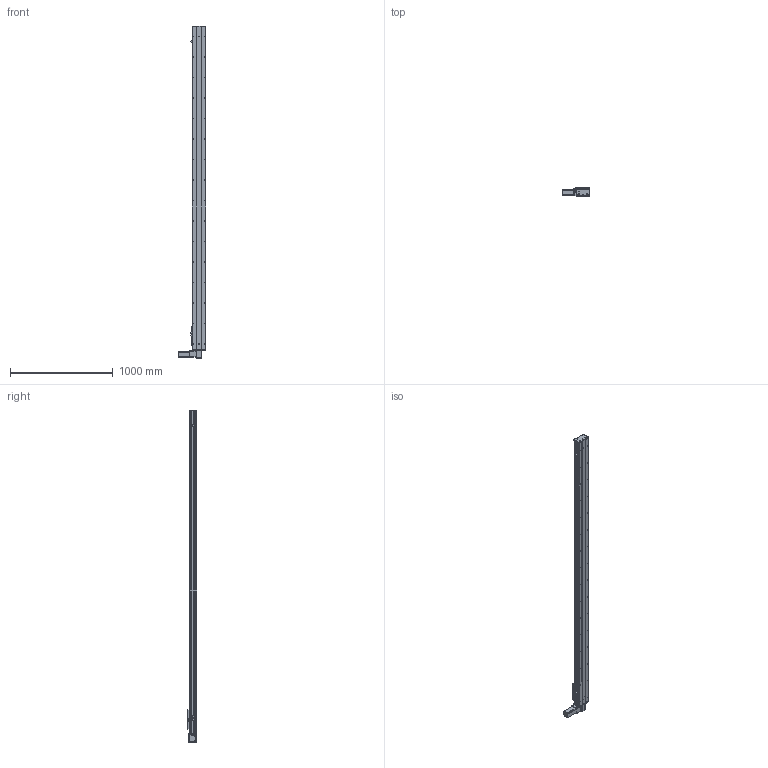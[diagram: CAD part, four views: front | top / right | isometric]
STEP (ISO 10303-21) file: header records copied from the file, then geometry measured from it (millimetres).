
FILE_DESCRIPTION (( 'STEP AP203' ), '1' );
FILE_NAME ('Y135CB-D90-S2850-BD-P400W.STEP', '2020-02-19T06:22:16', ( '微软用户' ), ( '微软中国' ), 'SwSTEP 2.0', 'SolidWorks 2017', '' );
FILE_SCHEMA (( 'CONFIG_CONTROL_DESIGN' ));
Length unit declared in the file: millimetre
Products named in the file (16): Y100-135俋离換覜ん--; Y135CB-耜裔; Y135C-陔俋离換覜結え-; 135CB---遴掛极.-; 135CB--詩湍-CE; 5C--俋欶; 35CB---喘謫眊楊擘啣; C-雄赽釱--; 0B-埴倛裔啣; Y10B--々湍喘謫眊--666; 0B-源倛裔啣; 0B-薊粣ん眊; san松下电机400不带刹车----; Y135CB-D90-S2850-BD-P400W; 5CB --掛极耜裔啣-; C-詩湍揤踡え-陔
Assembly tree (19 placements, depth 2):
  Y135CB-D90-S2850-BD-P400W
    Y135CB-耜裔
    135CB---遴掛极.-
    35CB---喘謫眊楊擘啣
    0B-埴倛裔啣
    0B-源倛裔啣
    san松下电机400不带刹车----
    5CB --掛极耜裔啣-  x2
    C-詩湍揤踡え-陔  x2
    135CB--詩湍-CE
    Y100-135俋离換覜ん--  x3
    Y135C-陔俋离換覜結え-
    5C--俋欶
    C-雄赽釱--
    Y10B--々湍喘謫眊--666
    0B-薊粣ん眊
Bounding box: 272 x 91 x 3238 mm (x, y, z)
Volume: 9191135.1 mm3; surface area: 3601137.7 mm2
Topology: 19 solids, 19 shells, 891 faces, 2428 edges, 1608 vertices
Faces by surface type: cylinder 460, plane 415, cone 16
Entity records: 27824 total; most frequent: CARTESIAN_POINT 4643, DIRECTION 4640, ORIENTED_EDGE 4332, EDGE_CURVE 2166, AXIS2_PLACEMENT_3D 1713, VERTEX_POINT 1436, LINE 1214, VECTOR 1214
